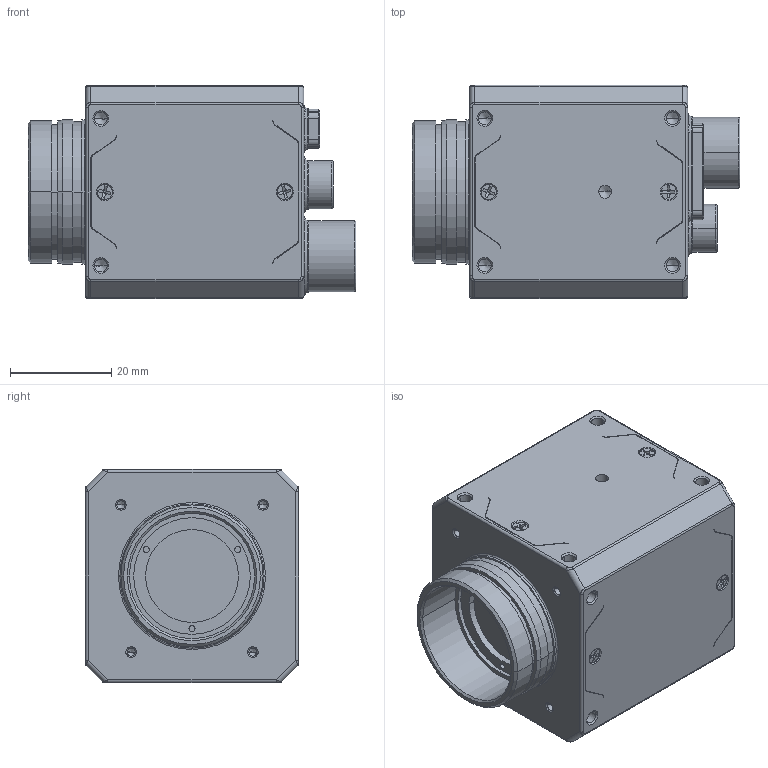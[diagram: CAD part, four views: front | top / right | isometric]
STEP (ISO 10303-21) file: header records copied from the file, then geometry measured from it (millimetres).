
FILE_DESCRIPTION((''),'2;1');
FILE_NAME('00-MV-CT050-U-MAX_ASM_ASM','2026-01-21T13:47:25',('sunli10'),(''),'CREO PARAMETRIC BY PTC INC, 2020044','CREO PARAMETRIC BY PTC INC, 2020044','');
FILE_SCHEMA(('CONFIG_CONTROL_DESIGN'));
Products named in the file (1): 00-MV-CT050-U-MAX_ASM_ASM
Bounding box: 64.66 x 42 x 42 mm (x, y, z)
Volume: 76812.2 mm3; surface area: 21540.2 mm2
Topology: 1 solids, 22 shells, 3475 faces, 9779 edges, 6359 vertices
Faces by surface type: plane 1740, cylinder 1199, cone 404, torus 70, bspline 34, extrusion 26, sphere 2
Entity records: 121171 total; most frequent: CARTESIAN_POINT 30223, ORIENTED_EDGE 19390, DIRECTION 18926, EDGE_CURVE 9695, AXIS2_PLACEMENT_3D 6521, VERTEX_POINT 6359, VECTOR 5884, LINE 5858
